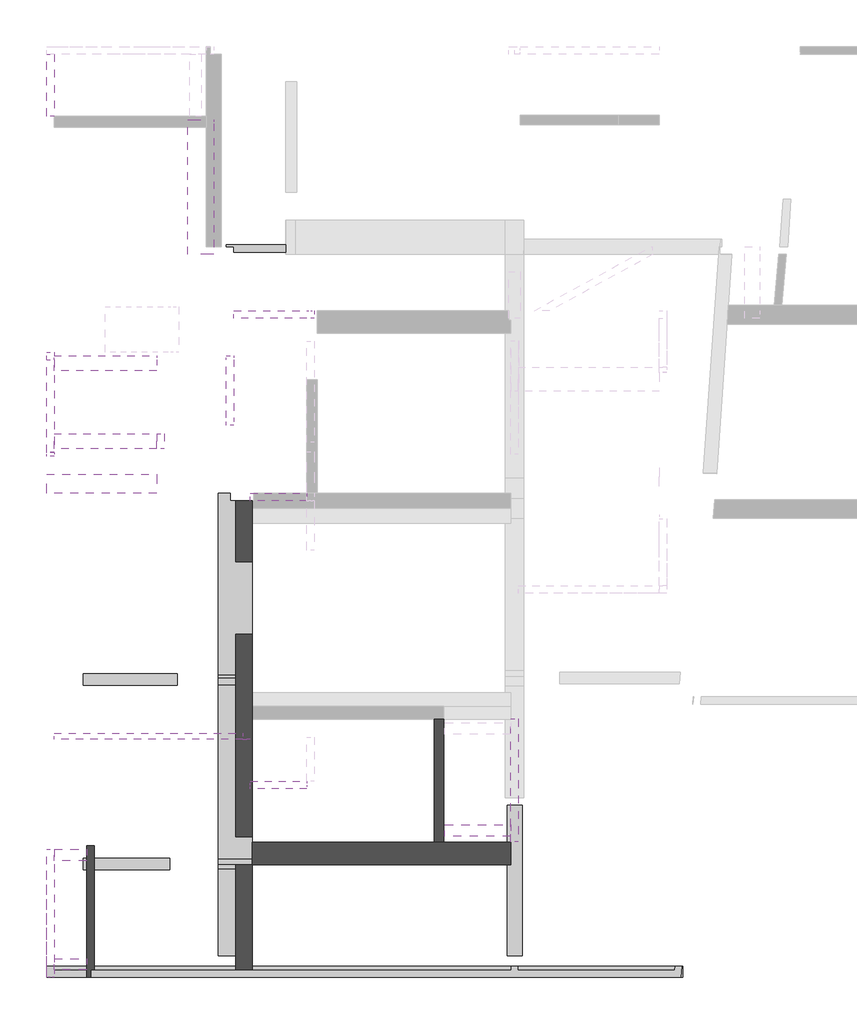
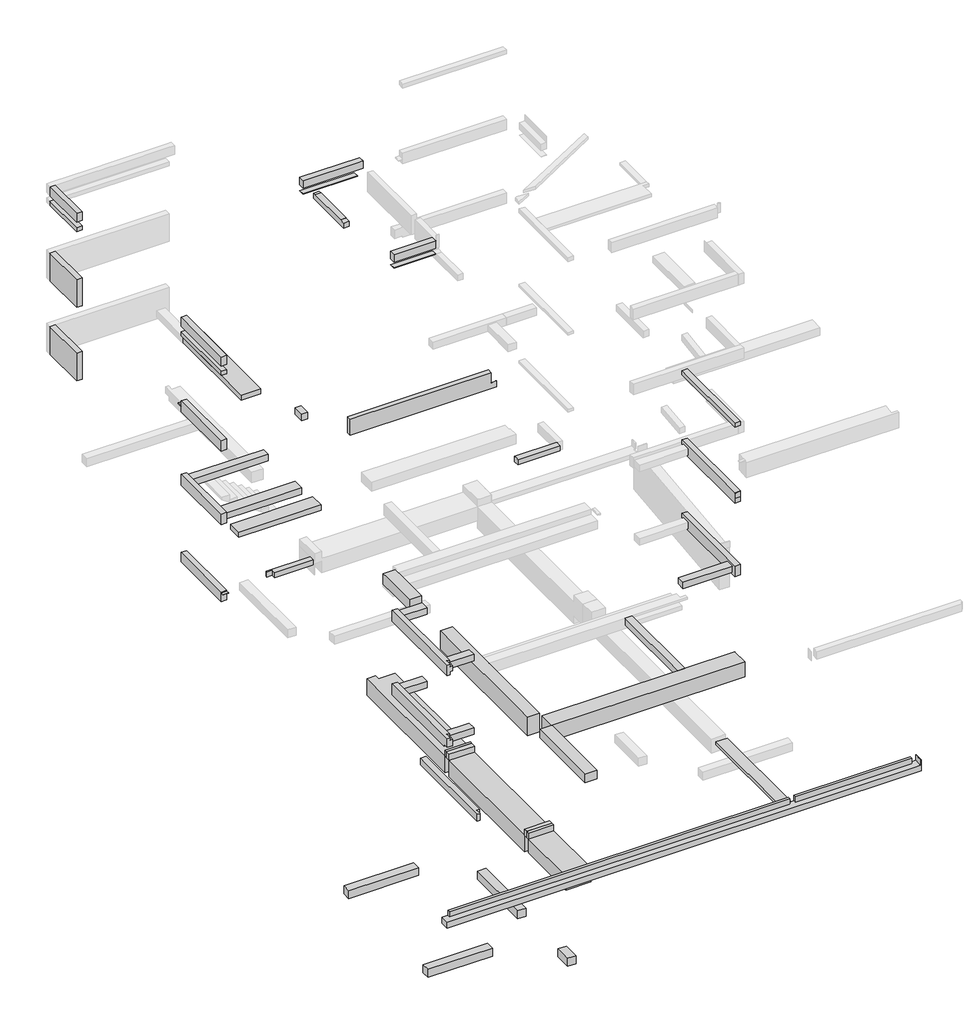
# One storey, part 1 of 3: 43 beams.
"""IFC4 building model written with IfcOpenShell, lengths in millimetres."""

import ifcopenshell
import ifcopenshell.guid

model = None  # the IFC model being written
_history = None  # IfcOwnerHistory: only IFC2X3 demands one
_inside = {}  # id of a spatial element -> (the spatial element, [elements in it])
_under = {}  # id of a project, library or spatial element -> (it, [spatial elements below it])
_declared = {}  # id of a project -> (the project, [libraries it declares])
_typed = {}  # id of a type object -> (the type object, [elements of that type])
_made_of = {}  # id of a material, layer set ... -> (it, [elements and type objects made of it])


def new_model(schema):
    """Start an empty IFC model of exactly this schema.

    Asked for "IFC4X3", IfcOpenShell would pick the latest addendum, in which some entities
    have other attributes; the version numbers below select the first issue.
    IFC2X3 requires an IfcOwnerHistory on every rooted entity: one is made here for all.
    """
    global model, _history
    if schema == "IFC4X3":
        model = ifcopenshell.file(schema_version=(4, 3, 0, 0))
    else:
        model = ifcopenshell.file(schema=schema)
    _inside.clear()
    _under.clear()
    _declared.clear()
    _typed.clear()
    _made_of.clear()
    _history = None
    if model.schema == "IFC2X3":
        org = make("IfcOrganization", Name="unknown")
        user = make(
            "IfcPersonAndOrganization",
            ThePerson=make("IfcPerson", FamilyName="unknown"),
            TheOrganization=org,
        )
        app = make(
            "IfcApplication",
            ApplicationDeveloper=org,
            Version="unknown",
            ApplicationFullName="unknown",
            ApplicationIdentifier="unknown",
        )
        _history = make(
            "IfcOwnerHistory",
            OwningUser=user,
            OwningApplication=app,
            ChangeAction="ADDED",
            CreationDate=0,
        )
    return model


def make(cls, **values):
    """One entity of the class cls with the attributes given. An attribute that is None is left unset."""
    return model.create_entity(
        cls, **{name: value for name, value in values.items() if value is not None}
    )


def rooted(cls, **values):
    """An entity with a GlobalId (a new one), such as an element, a storey or a relation."""
    return make(cls, GlobalId=ifcopenshell.guid.new(), OwnerHistory=_history, **values)


def si_unit(unit_type, name, prefix=None):
    """IfcSIUnit, for example si_unit("LENGTHUNIT", "METRE", prefix="MILLI")."""
    return make("IfcSIUnit", UnitType=unit_type, Prefix=prefix, Name=name)


def assignment(units):
    """IfcUnitAssignment: the units of a project."""
    return None if units is None else make("IfcUnitAssignment", Units=units)


def point(xyz):
    """IfcCartesianPoint."""
    return None if xyz is None else make("IfcCartesianPoint", Coordinates=xyz)


def direction(xyz):
    """IfcDirection."""
    return None if xyz is None else make("IfcDirection", DirectionRatios=xyz)


def frame(location, z_axis=None, x_axis=None):
    """IfcAxis2Placement3D, a coordinate frame: its origin and axes. An axis left out is left unset."""
    return make(
        "IfcAxis2Placement3D",
        Location=point(location),
        Axis=direction(z_axis),
        RefDirection=direction(x_axis),
    )


def origin():
    """The frame at (0, 0, 0) with its axes left unset."""
    return frame((0.0, 0.0, 0.0))


def place(relative_to, where):
    """IfcLocalPlacement: puts the frame where relative to a parent placement (None: the world)."""
    return make(
        "IfcLocalPlacement", PlacementRelTo=relative_to, RelativePlacement=where
    )


def context(
    kind, dimensions, precision=None, world=None, true_north=None, identifier=None
):
    """IfcGeometricRepresentationContext, for example the 3D "Model" context."""
    return make(
        "IfcGeometricRepresentationContext",
        ContextIdentifier=identifier,
        ContextType=kind,
        CoordinateSpaceDimension=dimensions,
        Precision=precision,
        WorldCoordinateSystem=world,
        TrueNorth=true_north,
    )


def project(units=None, contexts=None):
    """IfcProject with its units and contexts."""
    return rooted(
        "IfcProject",
        Name="project",
        RepresentationContexts=contexts,
        UnitsInContext=assignment(units),
    )


def spatial(cls, under=None, at=None, **own):
    """A site, building, storey or space (cls), placed at a placement, below another one or the project."""
    s = rooted(cls, ObjectPlacement=at, **own)
    if under is not None:
        _under.setdefault(under.id(), (under, []))[1].append(s)
    return s


def polyline(points):
    """IfcPolyline through the points."""
    return make("IfcPolyline", Points=[point(p) for p in points])


def outline(outer, holes=None, kind="AREA"):
    """IfcArbitraryClosedProfileDef: a profile drawn as a closed curve; with holes, ...WithVoids."""
    if holes is None:
        return make("IfcArbitraryClosedProfileDef", ProfileType=kind, OuterCurve=outer)
    return make(
        "IfcArbitraryProfileDefWithVoids",
        ProfileType=kind,
        OuterCurve=outer,
        InnerCurves=holes,
    )


def extrude(swept, where, along, depth):
    """IfcExtrudedAreaSolid: the profile swept, set in the frame where, extruded along a direction by depth."""
    return make(
        "IfcExtrudedAreaSolid",
        SweptArea=swept,
        Position=where,
        ExtrudedDirection=direction(along),
        Depth=depth,
    )


def faces_of(points, faces, orient=None, outer=None):
    """IfcFace entities. A face is a list of loops; a loop is a list of indices into points, from 0.

    orient and outer hold one flag for each loop. By default every Orientation is true, the
    first loop of a face is its IfcFaceOuterBound and the others are IfcFaceBound.
    """
    made = []
    for i, loops in enumerate(faces):
        bounds = []
        for j, loop in enumerate(loops):
            is_outer = j == 0 if outer is None else outer[i][j]
            bounds.append(
                make(
                    "IfcFaceOuterBound" if is_outer else "IfcFaceBound",
                    Bound=make("IfcPolyLoop", Polygon=[points[k] for k in loop]),
                    Orientation=True if orient is None else orient[i][j],
                )
            )
        made.append(make("IfcFace", Bounds=bounds))
    return made


def faceted_brep(points, faces, orient=None, outer=None, voids=None):
    """IfcFacetedBrep: a solid bounded by flat faces; with voids (closed shells), ...WithVoids."""
    shared = [point(p) for p in points]
    hull = make("IfcClosedShell", CfsFaces=faces_of(shared, faces, orient, outer))
    if voids is None:
        return make("IfcFacetedBrep", Outer=hull)
    return make(
        "IfcFacetedBrepWithVoids",
        Outer=hull,
        Voids=[
            make(cls, CfsFaces=faces_of(shared, fs, o, b)) for cls, fs, o, b in voids
        ],
    )


def shape(context_of_items, identifier, shape_type, items):
    """IfcShapeRepresentation: the items that make up one representation, for example the "Body"."""
    return make(
        "IfcShapeRepresentation",
        ContextOfItems=context_of_items,
        RepresentationIdentifier=identifier,
        RepresentationType=shape_type,
        Items=items,
    )


def made_of(thing, what):
    """Note that an element or type object is made of a material, layer set ...; save() writes the relation."""
    if what is not None:
        _made_of.setdefault(what.id(), (what, []))[1].append(thing)
    return thing


def element(
    cls,
    number,
    at=None,
    inside=None,
    cuts=None,
    type_object=None,
    material=None,
    context=None,
    identifier="Body",
    shape_type=None,
    held_by="IfcProductDefinitionShape",
    body=None,
    shapes=None,
    **own,
):
    """One element of the class cls, such as IfcWall. Its Tag is "e" and its number.

    at: its placement. inside: the storey or other place that contains it. cuts: it is an
    opening in that element (IfcRelVoidsElement). A single representation is given by context,
    identifier, shape_type and body (its items); several are given by shapes. held_by: the class
    of the entity that holds the representations. save() writes the other relations.
    """
    e = rooted(cls, Tag="e%d" % number, ObjectPlacement=at, **own)
    if body is not None:
        shapes = [shape(context, identifier, shape_type, body)]
    if shapes is not None:
        e.Representation = make(held_by, Representations=shapes)
    if inside is not None:
        _inside.setdefault(inside.id(), (inside, []))[1].append(e)
    if cuts is not None:
        rooted(
            "IfcRelVoidsElement", RelatingBuildingElement=cuts, RelatedOpeningElement=e
        )
    if type_object is not None:
        _typed.setdefault(type_object.id(), (type_object, []))[1].append(e)
    return made_of(e, material)


def aggregate(whole, parts):
    """IfcRelAggregates: a whole, such as a stair, and the parts it consists of."""
    return rooted("IfcRelAggregates", RelatingObject=whole, RelatedObjects=parts)


def save(model, path):
    """Write the relations noted so far, then the file.

    IfcRelAggregates (storeys below a building ...), IfcRelContainedInSpatialStructure (elements
    in a storey), IfcRelDefinesByType, IfcRelAssociatesMaterial and IfcRelDeclares: one each for
    every whole, place, type object, material and project.
    """
    for whole, parts in _under.values():
        aggregate(whole, parts)
    for where, things in _inside.values():
        rooted(
            "IfcRelContainedInSpatialStructure",
            RelatedElements=things,
            RelatingStructure=where,
        )
    for kind, things in _typed.values():
        rooted("IfcRelDefinesByType", RelatedObjects=things, RelatingType=kind)
    for what, things in _made_of.values():
        rooted("IfcRelAssociatesMaterial", RelatedObjects=things, RelatingMaterial=what)
    for by, libraries in _declared.values():
        rooted("IfcRelDeclares", RelatingContext=by, RelatedDefinitions=libraries)
    model.write(path)


model = new_model("IFC4")

# Units and contexts
model_context = context("Model", 3, world=origin())
ifc_project = project(units=[si_unit("LENGTHUNIT", "METRE", prefix="MILLI")], contexts=[model_context])

# Site, building, storey
site = spatial("IfcSite", under=ifc_project)
building = spatial("IfcBuilding", under=site)
storey = spatial("IfcBuildingStorey", under=building, Name="02-Plateau 2", Elevation=2400.0)

# Beams
placement = place(None, origin())
element("IfcBeam", 1, ObjectType="Poutre rectangulaire - Béton : Coulée en place 43x57", at=placement, inside=storey, context=model_context, shape_type="SweptSolid", body=[
    extrude(outline(polyline([(-1072.0447796, -2750.1377724), (-642.0447796, -2750.1377724), (-642.0447796, -5540.1377724), (-1072.0447796, -5540.1377724), (-1072.0447796, -2750.1377724)])), frame((0.0, 0.0, 3440.0), z_axis=(0.0, 0.0, 1.0), x_axis=(1.0, 0.0, 0.0)), (0.0, 0.0, 1.0), 320.0),
])
element("IfcBeam", 2, ObjectType="Poutre rectangulaire - Béton : Coulée en place 43x95", at=placement, inside=storey, context=model_context, shape_type="Brep", body=[
    faceted_brep([(-1072.0447796, -1999.7877724, 3060.0), (-642.0447796, -1999.7877724, 3060.0), (-642.0447796, -1999.7877724, 3760.0), (-1072.0447796, -1999.7877724, 3760.0), (-642.0447796, 3375.2622276, 3060.0), (-642.0447796, 3375.2622276, 3760.0), (-642.0447796, 1469.8622276, 3760.0), (-642.0447796, 1119.8622276, 3760.0), (-1072.0447796, 3375.2622276, 3060.0), (-1072.0447796, 3375.2622276, 3760.0)], [[[0, 1, 2, 3]], [[2, 1, 4, 5, 6, 7]], [[1, 0, 8, 4]], [[0, 3, 9, 8]], [[3, 2, 7, 6, 5, 9]], [[5, 4, 8, 9]]]),
])
element("IfcBeam", 3, ObjectType="Poutre rectangulaire - Béton : Coulée en place 43x65", at=placement, inside=storey, context=model_context, shape_type="Brep", body=[
    faceted_brep([(-642.0447796, 6929.8622276, 3360.0), (-642.0447796, 6929.8622276, 3760.0), (-642.0447796, 6729.8622276, 3760.0), (-642.0447796, 5305.2622276, 3760.0), (-642.0447796, 5305.2622276, 3360.0), (-642.0447796, 6329.8622276, 3360.0), (-1072.0447796, 6929.8622276, 3360.0), (-1072.0447796, 5305.2622276, 3360.0), (-1072.0447796, 6329.8622276, 3360.0), (-1072.0447796, 5305.2622276, 3760.0), (-1072.0447796, 6729.8622276, 3760.0), (-1072.0447796, 6929.8622276, 3760.0)], [[[0, 1, 2, 3, 4, 5]], [[6, 0, 5, 4, 7, 8]], [[9, 10, 11, 6, 8, 7]], [[4, 3, 9, 7]], [[1, 0, 6, 11]], [[1, 11, 10, 9, 3, 2]]]),
])
element("IfcBeam", 4, ObjectType="Poutre rectangulaire - Béton : Coulée en place 20x50", at=placement, inside=storey, context=model_context, shape_type="Brep", body=[
    faceted_brep([(-4837.0447796, -5540.1377724, 3760.0), (-4837.0447796, -5540.1377724, 3510.0), (-4837.0447796, -2340.1377724, 3510.0), (-4837.0447796, -2240.1377724, 3510.0), (-4837.0447796, -2240.1377724, 3760.0), (-4837.0447796, -2340.1377724, 3760.0), (-5037.0447796, -5742.5306807, 3510.0), (-5037.0447796, -5740.1377724, 3510.0), (-5037.0447796, -2340.1377724, 3510.0), (-5037.0447796, -2240.1377724, 3510.0), (-4937.0447796, -5540.1377724, 3510.0), (-4937.0447796, -5740.1377724, 3510.0), (-4937.0447796, -5742.5306807, 3510.0), (-5037.0447796, -5742.5306807, 3760.0), (-5037.0447796, -2340.1377724, 3760.0), (-5037.0447796, -2240.1377724, 3760.0), (-4937.0447796, -5742.5306807, 3760.0), (-4937.0447796, -5540.1377724, 3760.0), (-4937.0447796, -5740.1377724, 3760.0)], [[[0, 1, 2, 3, 4, 5]], [[6, 7, 8, 9, 3, 2, 1, 10, 11, 12]], [[9, 8, 7, 6, 13, 14, 15]], [[6, 12, 16, 13]], [[10, 17, 18, 16, 12, 11]], [[17, 10, 1, 0]], [[0, 5, 4, 15, 14, 13, 16, 18, 17]], [[3, 9, 15, 4]]]),
])
element("IfcBeam", 5, ObjectType="Poutre rectangulaire - Béton : Coulée en place 600x820", at=placement, inside=storey, context=model_context, shape_type="Brep", body=[
    faceted_brep([(6232.9552204, -2750.1377724, 3190.0), (6232.9552204, -2750.1377724, 3760.0), (-642.0447796, -2750.1377724, 3760.0), (-642.0447796, -2750.1377724, 3190.0), (-642.0447796, -2150.1377724, 3190.0), (6232.9552204, -2150.1377724, 3190.0), (-642.0447796, -2150.1377724, 3760.0), (4202.9552204, -2150.1377724, 3760.0), (4452.9552204, -2150.1377724, 3760.0), (6232.9552204, -2150.1377724, 3760.0), (6232.9552204, -2150.1377724, 3510.0), (-642.0447796, -2727.4377724, 3760.0), (6232.9552204, -2160.1377724, 3760.0)], [[[0, 1, 2, 3]], [[3, 4, 5, 0]], [[4, 6, 7, 8, 9, 10, 5]], [[6, 4, 3, 2, 11]], [[1, 0, 5, 10, 9, 12]], [[2, 1, 12, 9, 8, 7, 6, 11]]]),
])
element("IfcBeam", 6, ObjectType="Poutre rectangulaire - Béton : Coulée en place 20x100", at=placement, inside=storey, context=model_context, shape_type="Brep", body=[
    faceted_brep([(-6107.0447796, 10679.8622276, 3690.0), (-6107.0447796, 8209.8622276, 3690.0), (-6107.0447796, 8209.8622276, 3760.0), (-6107.0447796, 8209.8622276, 4010.0), (-6107.0447796, 8109.8622276, 4010.0), (-6107.0447796, 8109.8622276, 4022.7706813), (-6107.0447796, 8209.8622276, 4022.7706813), (-6107.0447796, 8209.8622276, 4050.0), (-6107.0447796, 10679.8622276, 4050.0), (-5907.0447796, 8209.8622276, 3690.0), (-5907.0447796, 10679.8622276, 3690.0), (-5907.0447796, 10679.8622276, 4050.0), (-5907.0447796, 8209.8622276, 4050.0), (-5907.0447796, 8209.8622276, 4022.7706813), (-5907.0447796, 8109.8622276, 4022.7706813), (-5907.0447796, 8109.8622276, 4010.0), (-5907.0447796, 8209.8622276, 4010.0), (-5907.0447796, 8209.8622276, 3760.0)], [[[0, 1, 2, 3, 4, 5, 6, 7, 8]], [[9, 10, 11, 12, 13, 14, 15, 16, 17]], [[11, 8, 7, 12]], [[1, 0, 10, 9]], [[10, 0, 8, 11]], [[4, 15, 14, 5]], [[3, 16, 15, 4]], [[6, 13, 12, 7]], [[13, 6, 5, 14]], [[16, 3, 2, 1, 9, 17]]]),
])
element("IfcBeam", 7, ObjectType="Poutre rectangulaire - Béton : Coulée en place 25x50", at=placement, inside=storey, context=model_context, shape_type="Brep", body=[
    faceted_brep([(4202.9552204, 1119.8622276, 3510.0), (4202.9552204, -2150.1377724, 3510.0), (4202.9552204, -2150.1377724, 3760.0), (4202.9552204, 1119.8622276, 3760.0), (4452.9552204, -2150.1377724, 3510.0), (4452.9552204, 1119.8622276, 3510.0), (4452.9552204, 1119.8622276, 3690.0), (4452.9552204, 1119.8622276, 3760.0), (4452.9552204, -2150.1377724, 3760.0), (4452.9552204, -2150.1377724, 3690.0)], [[[0, 1, 2, 3]], [[4, 1, 0, 5]], [[4, 5, 6, 7, 8, 9]], [[1, 4, 9, 8, 2]], [[5, 0, 3, 7, 6]], [[3, 2, 8, 7]]]),
])
element("IfcBeam", 8, ObjectType="Poutre rectangulaire - Béton : Coulée en place 20x40", at=placement, inside=storey, context=model_context, shape_type="Brep", body=[
    faceted_brep([(-6107.0447796, -2340.1377724, 6590.0), (-6107.0447796, -5540.1377724, 6590.0), (-6107.0447796, -5540.1377724, 6660.0), (-6107.0447796, -5740.1377724, 6660.0), (-6107.0447796, -5740.1377724, 6990.0), (-6107.0447796, -2340.1377724, 6990.0), (-6107.0447796, -2340.1377724, 6970.0), (-6107.0447796, -2340.1377724, 6770.0), (-5907.0447796, -2340.1377724, 6590.0), (-5907.0447796, -5540.1377724, 6590.0), (-5907.0447796, -2340.1377724, 6660.0), (-5907.0447796, -2340.1377724, 6770.0), (-5907.0447796, -2340.1377724, 6900.0), (-5907.0447796, -2340.1377724, 6970.0), (-5907.0447796, -2340.1377724, 6990.0), (-5907.0447796, -5540.1377724, 6990.0), (-5907.0447796, -5540.1377724, 6900.0), (-5907.0447796, -5740.1377724, 6900.0), (-5907.0447796, -5740.1377724, 6660.0), (-5907.0447796, -5540.1377724, 6660.0), (-6007.0447796, -5740.1377724, 6990.0), (-6007.0447796, -5540.1377724, 6990.0), (-6007.0447796, -5740.1377724, 6900.0), (-6007.0447796, -5540.1377724, 6900.0)], [[[0, 1, 2, 3, 4, 5, 6, 7]], [[0, 8, 9, 1]], [[9, 8, 10, 11, 12, 13, 14, 15, 16, 17, 18, 19]], [[5, 4, 20, 21, 15, 14]], [[4, 3, 18, 17, 22, 20]], [[8, 0, 7, 6, 5, 14, 13, 12, 11, 10]], [[1, 9, 19, 2]], [[2, 19, 18, 3]], [[23, 16, 15, 21]], [[23, 22, 17, 16]], [[22, 23, 21, 20]]]),
])
element("IfcBeam", 9, ObjectType="Poutre rectangulaire - Béton : Coulée en place 20x40", at=placement, inside=storey, context=model_context, shape_type="Brep", body=[
    faceted_brep([(6432.9552204, -2140.1377724, 6990.0), (6432.9552204, -2140.1377724, 6970.0), (6432.9552204, -2140.1377724, 6770.0), (6432.9552204, -2140.1377724, 6590.0), (6432.9552204, 1129.8622276, 6590.0), (6432.9552204, 1129.8622276, 6770.0), (6432.9552204, 1129.8622276, 6970.0), (6432.9552204, 1129.8622276, 6990.0), (6232.9552204, -2140.1377724, 6590.0), (6232.9552204, 1129.8622276, 6590.0), (6232.9552204, -2140.1377724, 6660.0), (6232.9552204, -2140.1377724, 6900.0), (6232.9552204, -2140.1377724, 6990.0), (6232.9552204, 1129.8622276, 6990.0), (6232.9552204, 1129.8622276, 6900.0), (6232.9552204, 1129.8622276, 6660.0)], [[[0, 1, 2, 3, 4, 5, 6, 7]], [[3, 8, 9, 4]], [[8, 10, 11, 12, 13, 14, 15, 9]], [[12, 0, 7, 13]], [[8, 3, 2, 1, 0, 12, 11, 10]], [[4, 9, 15, 14, 13, 7, 6, 5]]]),
])
element("IfcBeam", 10, ObjectType="Poutre rectangulaire - Béton : Coulée en place 20x40", at=placement, inside=storey, context=model_context, shape_type="Brep", body=[
    faceted_brep([(-6107.0447796, 10679.8622276, 6990.0), (-6107.0447796, 10679.8622276, 6770.0), (-6107.0447796, 10679.8622276, 6590.0), (-6107.0447796, 8209.8622276, 6590.0), (-6107.0447796, 8209.8622276, 6770.0), (-6107.0447796, 8209.8622276, 6970.0), (-6107.0447796, 8209.8622276, 6990.0), (-5907.0447796, 10679.8622276, 6590.0), (-5907.0447796, 8209.8622276, 6590.0), (-5907.0447796, 10679.8622276, 6770.0), (-5907.0447796, 10679.8622276, 6792.7706813), (-5907.0447796, 10679.8622276, 6900.0), (-5907.0447796, 10679.8622276, 6990.0), (-5907.0447796, 8209.8622276, 6990.0), (-5907.0447796, 8209.8622276, 6900.0), (-5907.0447796, 8209.8622276, 6660.0)], [[[0, 1, 2, 3, 4, 5, 6]], [[2, 7, 8, 3]], [[7, 9, 10, 11, 12, 13, 14, 15, 8]], [[12, 0, 6, 13]], [[7, 2, 1, 0, 12, 11, 10, 9]], [[13, 6, 5, 4, 3, 8, 15, 14]]]),
])
element("IfcBeam", 11, ObjectType="Poutre rectangulaire - Béton : Coulée en place 20x40", at=placement, inside=storey, context=model_context, shape_type="Brep", body=[
    faceted_brep([(6432.9552204, -2140.1377724, 9360.0), (6432.9552204, 1129.8622276, 9360.0), (6432.9552204, 1129.8622276, 9540.0), (6432.9552204, 1129.8622276, 9740.0), (6432.9552204, 1129.8622276, 9760.0), (6432.9552204, -2140.1377724, 9760.0), (6432.9552204, -2140.1377724, 9740.0), (6432.9552204, -2142.5306807, 9740.0), (6432.9552204, -2142.5306807, 9540.0), (6432.9552204, -2140.1377724, 9540.0), (6232.9552204, 1129.8622276, 9360.0), (6233.3552204, -2140.1377724, 9360.0), (6232.9552204, -2140.1377724, 9360.0), (6232.9552204, -2140.1377724, 9430.0), (6232.9552204, -2140.1377724, 9540.0), (6232.9552204, -2142.5306807, 9540.0), (6232.9552204, -2142.5306807, 9670.0), (6232.9552204, -2140.1377724, 9670.0), (6232.9552204, -2140.1377724, 9760.0), (6232.9552204, 1129.8622276, 9760.0), (6232.9552204, 1129.8622276, 9740.0), (6232.9552204, 1129.8622276, 9670.0), (6232.9552204, 1129.8622276, 9430.0), (6233.3552204, -2140.1377724, 9540.0), (6233.3552204, -2142.5306807, 9740.0), (6233.3552204, -2142.5306807, 9670.0), (6233.3552204, -2140.1377724, 9670.0), (6233.3552204, -2140.1377724, 9740.0)], [[[0, 1, 2, 3, 4, 5, 6, 7, 8, 9]], [[10, 1, 0, 11, 12]], [[10, 12, 13, 14, 15, 16, 17, 18, 19, 20, 21, 22]], [[18, 5, 4, 19]], [[1, 10, 22, 21, 20, 19, 4, 3, 2]], [[0, 9, 23, 14, 13, 12, 11]], [[23, 9, 8, 15, 14]], [[8, 7, 24, 25, 16, 15]], [[17, 26, 27, 6, 5, 18]], [[26, 17, 16, 25]], [[26, 25, 24, 27]], [[6, 27, 24, 7]]]),
])
element("IfcBeam", 12, ObjectType="Poutre rectangulaire - Béton : Coulée en place 20x40", at=placement, inside=storey, context=model_context, shape_type="Brep", body=[
    faceted_brep([(-6107.0447796, -5740.1377724, 9360.0), (-6107.0447796, -5740.1377724, 9760.0), (-6107.0447796, -2340.1377724, 9760.0), (-6107.0447796, -2340.1377724, 9740.0), (-6107.0447796, -2340.1377724, 9540.0), (-6107.0447796, -2340.1377724, 9360.0), (-6007.0447796, -5740.1377724, 9360.0), (-5907.0447796, -2340.1377724, 9360.0), (-5907.0447796, -5540.1377724, 9360.0), (-6007.0447796, -5540.1377724, 9360.0), (-5907.0447796, -5540.1377724, 9470.0), (-5907.0447796, -5540.1377724, 9430.0), (-5907.0447796, -2340.1377724, 9430.0), (-5907.0447796, -2340.1377724, 9540.0), (-5907.0447796, -2340.1377724, 9670.0), (-5907.0447796, -2340.1377724, 9740.0), (-5907.0447796, -2340.1377724, 9760.0), (-5907.0447796, -5540.1377724, 9760.0), (-5907.0447796, -5540.1377724, 9670.0), (-5907.0447796, -5740.1377724, 9670.0), (-5907.0447796, -5740.1377724, 9470.0), (-6007.0447796, -5740.1377724, 9760.0), (-6007.0447796, -5540.1377724, 9760.0), (-6007.0447796, -5740.1377724, 9470.0), (-6007.0447796, -5740.1377724, 9670.0), (-6007.0447796, -5540.1377724, 9470.0), (-6007.0447796, -5540.1377724, 9670.0)], [[[0, 1, 2, 3, 4, 5]], [[6, 0, 5, 7, 8, 9]], [[10, 11, 8, 7, 12, 13, 14, 15, 16, 17, 18, 19, 20]], [[2, 1, 21, 22, 17, 16]], [[1, 0, 6, 23, 20, 19, 24, 21]], [[10, 25, 9, 8, 11]], [[23, 25, 10, 20]], [[25, 23, 6, 9]], [[7, 5, 4, 3, 2, 16, 15, 14, 13, 12]], [[26, 18, 17, 22]], [[26, 24, 19, 18]], [[24, 26, 22, 21]]]),
])
element("IfcBeam", 13, ObjectType="Poutre rectangulaire - Béton : Coulée en place 20x40", at=placement, inside=storey, context=model_context, shape_type="Brep", body=[
    faceted_brep([(-6107.0447796, 10679.8622276, 9360.0), (-6107.0447796, 8209.8622276, 9360.0), (-6107.0447796, 8209.8622276, 9540.0), (-6107.0447796, 8209.8622276, 9740.0), (-6107.0447796, 8209.8622276, 9760.0), (-6107.0447796, 10679.8622276, 9760.0), (-6107.0447796, 10679.8622276, 9562.7706813), (-6107.0447796, 10879.8622276, 9562.7706813), (-6107.0447796, 10879.8622276, 9540.0), (-6107.0447796, 10679.8622276, 9540.0), (-5907.0447796, 8209.8622276, 9360.0), (-5907.0447796, 10679.8622276, 9360.0), (-5907.0447796, 10679.8622276, 9540.0), (-5907.0447796, 10879.8622276, 9540.0), (-5907.0447796, 10879.8622276, 9562.7706813), (-5907.0447796, 10679.8622276, 9562.7706813), (-5907.0447796, 10679.8622276, 9760.0), (-5907.0447796, 8209.8622276, 9760.0), (-5907.0447796, 8209.8622276, 9670.0), (-5907.0447796, 8209.8622276, 9430.0)], [[[0, 1, 2, 3, 4, 5, 6, 7, 8, 9]], [[10, 1, 0, 11]], [[10, 11, 12, 13, 14, 15, 16, 17, 18, 19]], [[4, 17, 16, 5]], [[13, 8, 7, 14]], [[1, 10, 19, 18, 17, 4, 3, 2]], [[9, 12, 11, 0]], [[12, 9, 8, 13]], [[15, 6, 5, 16]], [[6, 15, 14, 7]]]),
])
element("IfcBeam", 14, ObjectType="Poutre rectangulaire - Béton : Coulée en place 20x69", at=placement, inside=storey, context=model_context, shape_type="SweptSolid", body=[
    extrude(outline(polyline([(-5907.0447796, 8209.8622276), (-6107.0447796, 8209.8622276), (-6107.0447796, 10679.8622276), (-5907.0447796, 10679.8622276), (-5907.0447796, 8209.8622276)])), frame((0.0, 0.0, 12570.0), z_axis=(0.0, 0.0, 1.0), x_axis=(1.0, 0.0, 0.0)), (0.0, 0.0, 1.0), 340.0),
    extrude(outline(polyline([(-5907.0447796, 8209.8622276), (-6107.0447796, 8209.8622276), (-6107.0447796, 10679.8622276), (-5907.0447796, 10679.8622276), (-5907.0447796, 8209.8622276)])), frame((0.0, 0.0, 12220.0), z_axis=(0.0, 0.0, 1.0), x_axis=(1.0, 0.0, 0.0)), (0.0, 0.0, 1.0), 150.0),
])
element("IfcBeam", 15, ObjectType="Poutre rectangulaire - Béton : Coulée en place 20x61", at=placement, inside=storey, context=model_context, shape_type="Brep", body=[
    faceted_brep([(6432.9552204, -2140.1377724, 12220.0), (6233.3552204, -2140.1377724, 12220.0), (6232.9552204, -2140.1377724, 12220.0), (6232.9552204, 1129.8622276, 12220.0), (6432.9552204, 1129.8622276, 12220.0), (6432.9552204, -2140.1377724, 12370.0), (6432.9552204, 1129.8622276, 12370.0), (6232.9552204, -2140.1377724, 12370.0), (6233.3552204, -2140.1377724, 12370.0), (6232.9552204, 1129.8622276, 12370.0)], [[[0, 1, 2, 3, 4]], [[5, 0, 4, 6]], [[7, 2, 1, 0, 5, 8]], [[3, 9, 6, 4]], [[9, 7, 8, 5, 6]], [[2, 7, 9, 3]]]),
])
element("IfcBeam", 16, ObjectType="Poutre rectangulaire - Béton : Coulée en place 16x60", at=placement, inside=storey, context=model_context, shape_type="Brep", body=[
    faceted_brep([(-5907.0447796, 749.8622276, 14520.0), (-5907.0447796, 749.8622276, 15120.0), (-887.0447796, 749.8622276, 15120.0), (-887.0447796, 749.8622276, 14520.0), (-687.0447796, 589.8622276, 14520.0), (-5907.0447796, 589.8622276, 14520.0), (-887.0447796, 592.8184067, 14520.0), (-687.0447796, 592.8184067, 14520.0), (-687.0447796, 589.8622276, 14740.0), (-887.0447796, 589.8622276, 14740.0), (-887.0447796, 589.8622276, 15120.0), (-5907.0447796, 589.8622276, 15120.0), (-687.0447796, 592.8184067, 14740.0), (-887.0447796, 592.8184067, 14740.0)], [[[0, 1, 2, 3]], [[4, 5, 0, 3, 6, 7]], [[5, 4, 8, 9, 10, 11]], [[1, 11, 10, 2]], [[4, 7, 12, 8]], [[1, 0, 5, 11]], [[9, 13, 6, 3, 2, 10]], [[12, 13, 9, 8]], [[13, 12, 7, 6]]]),
])
element("IfcBeam", 17, ObjectType="Poutre rectangulaire - Béton : Coulée en place 90x85", at=placement, inside=storey, context=model_context, shape_type="Brep", body=[
    faceted_brep([(-637.0447796, 6929.8622276, -770.0), (-637.0447796, 6929.8622276, -190.0), (-637.0447796, 6929.8622276, -150.0), (-637.0447796, 2289.8622276, -150.0), (-637.0447796, 2289.8622276, -190.0), (-637.0447796, 2289.8622276, -770.0), (-1227.0447796, 6929.8622276, -770.0), (-1537.0447796, 2289.8622276, -770.0), (-1537.0447796, 7129.8622276, -770.0), (-1227.0447796, 7129.8622276, -770.0), (-1537.0447796, 2289.8622276, -150.0), (-1537.0447796, 7129.8622276, -150.0), (-1537.0447796, 2209.8622276, 80.0), (-637.0447796, 2209.8622276, 80.0), (-637.0447796, 2289.8622276, 80.0), (-1537.0447796, 2289.8622276, 80.0), (-1227.0447796, 7129.8622276, -150.0), (-1227.0447796, 6929.8622276, -150.0), (-637.0447796, 2209.8622276, -150.0), (-1537.0447796, 2209.8622276, -150.0)], [[[0, 1, 2, 3, 4, 5]], [[6, 0, 5, 7, 8, 9]], [[7, 10, 11, 8]], [[12, 13, 14, 15]], [[9, 8, 11, 16]], [[1, 0, 6, 17, 2]], [[3, 10, 7, 5, 4]], [[10, 3, 18, 19]], [[13, 12, 19, 18]], [[3, 2, 17, 16, 11, 10]], [[3, 10, 15, 14]], [[18, 3, 14, 13]], [[10, 19, 12, 15]], [[17, 6, 9, 16]]]),
])
element("IfcBeam", 18, ObjectType="Poutre rectangulaire - Béton : Coulée en place 90x85", at=placement, inside=storey, context=model_context, shape_type="Brep", body=[
    faceted_brep([(-1537.0447796, -2600.1377724, -150.0), (-1537.0447796, -2750.1377724, -150.0), (-1537.0447796, -2750.1377724, 80.0), (-1537.0447796, -2600.1377724, 80.0), (-1537.0447796, 2039.8622276, -770.0), (-637.0447796, 2039.8622276, -770.0), (-637.0447796, -2600.1377724, -770.0), (-1537.0447796, -2600.1377724, -770.0), (-637.0447796, -2750.1377724, -150.0), (-637.0447796, -2600.1377724, -150.0), (-637.0447796, -2600.1377724, 80.0), (-637.0447796, -2750.1377724, 80.0), (-1537.0447796, 2209.8622276, 80.0), (-637.0447796, 2209.8622276, 80.0), (-637.0447796, 2209.8622276, -150.0), (-1537.0447796, 2209.8622276, -150.0), (-1537.0447796, 2039.8622276, -150.0), (-637.0447796, 2039.8622276, -150.0), (-637.0447796, 2039.8622276, -190.0), (-637.0447796, -2600.1377724, -190.0), (-637.0447796, 2039.8622276, 80.0), (-1537.0447796, 2039.8622276, 80.0)], [[[0, 1, 2, 3]], [[4, 5, 6, 7]], [[8, 9, 10, 11]], [[2, 11, 10, 3]], [[12, 13, 14, 15]], [[16, 17, 18, 5, 4]], [[17, 16, 15, 14]], [[9, 0, 7, 6, 19]], [[0, 9, 8, 1]], [[11, 2, 1, 8]], [[16, 0, 9, 17]], [[16, 17, 20, 21]], [[9, 0, 3, 10]], [[16, 4, 7, 0]], [[12, 15, 16, 21]], [[6, 5, 18, 17, 9, 19]], [[14, 13, 20, 17]], [[13, 12, 21, 20]]]),
])
element("IfcBeam", 19, ObjectType="Poutre rectangulaire - Béton : Coulée en place 90x75", at=placement, inside=storey, context=model_context, shape_type="Brep", body=[
    faceted_brep([(-1537.0447796, -2850.1377724, -150.0), (-1537.0447796, -2850.1377724, -670.0), (-1537.0447796, -5160.1377724, -670.0), (-1537.0447796, -5160.1377724, -150.0), (-637.0447796, -2850.1377724, -670.0), (-637.0447796, -5160.1377724, -670.0), (-637.0447796, -5160.1377724, -190.0), (-637.0447796, -2850.1377724, -190.0), (-637.0447796, -2850.1377724, -150.0), (-637.0447796, -5160.1377724, -150.0), (-637.0447796, -2750.1377724, 80.0), (-1537.0447796, -2750.1377724, 80.0), (-1537.0447796, -2850.1377724, 80.0), (-637.0447796, -2850.1377724, 80.0), (-637.0447796, -2750.1377724, -150.0), (-1537.0447796, -2750.1377724, -150.0)], [[[0, 1, 2, 3]], [[1, 4, 5, 2]], [[6, 5, 4, 7, 8, 9]], [[10, 11, 12, 13]], [[11, 10, 14, 15]], [[0, 8, 7, 4, 1]], [[8, 0, 15, 14]], [[3, 2, 5, 6, 9]], [[0, 3, 9, 8]], [[0, 8, 13, 12]], [[11, 15, 0, 12]], [[14, 10, 13, 8]]]),
])
element("IfcBeam", 20, ObjectType="Poutre rectangulaire - Béton : Coulée en place 20x45", at=placement, inside=storey, context=model_context, shape_type="SweptSolid", body=[
    extrude(outline(polyline([(-1327.0447796, 13679.8622276), (-1327.0447796, 13729.8622276), (255.2552204, 13729.8622276), (255.2552204, 13529.8622276), (-1127.0447796, 13529.8622276), (-1127.0447796, 13679.8622276), (-1327.0447796, 13679.8622276)])), frame((0.0, 0.0, -370.0), z_axis=(0.0, 0.0, 1.0), x_axis=(1.0, 0.0, 0.0)), (0.0, 0.0, 1.0), 180.0),
])
element("IfcBeam", 21, ObjectType="Poutre rectangulaire - Béton : Coulée en place 40x38", at=placement, inside=storey, context=model_context, shape_type="SweptSolid", body=[
    extrude(outline(polyline([(6132.9552204, -1160.1377724), (6532.9552204, -1160.1377724), (6532.9552204, -5160.1377724), (6132.9552204, -5160.1377724), (6132.9552204, -1160.1377724)])), frame((0.0, 0.0, -300.0), z_axis=(0.0, 0.0, 1.0), x_axis=(1.0, 0.0, 0.0)), (0.0, 0.0, 1.0), 110.0),
])
element("IfcBeam", 22, ObjectType="Poutre rectangulaire - Béton : corbeaux 30x43", at=placement, inside=storey, context=model_context, shape_type="Brep", body=[
    faceted_brep([(10805.6552204, -5740.1377724, 280.0), (10805.6552204, -5740.1377724, -150.0), (10805.6552204, -5440.4570037, -150.0), (10805.6552204, -5440.4570037, 80.0), (10805.6552204, -5440.1377724, 80.0), (10805.6552204, -5440.1377724, 280.0), (10766.9267033, -5740.1377724, 280.0), (10766.9267033, -5740.1377724, 80.0), (10566.4383237, -5740.1377724, 80.0), (-4937.0447796, -5740.1377724, 80.0), (-6107.0447796, -5740.1377724, 80.0), (-6107.0447796, -5740.1377724, -150.0), (-6107.0447796, -5440.1377724, -150.0), (-637.0447796, -5440.1377724, -150.0), (6533.9216137, -5440.1377724, -150.0), (6533.9216137, -5440.4570037, -150.0), (10787.9047469, -5440.1377724, 280.0), (10787.9047469, -5440.1377724, 80.0), (-6107.0447796, -5440.1377724, 80.0), (-5907.0447796, -5440.1377724, 280.0), (-5907.0447796, -5440.1377724, 80.0), (-5907.0447796, -5540.1377724, 80.0), (-5907.0447796, -5540.1377724, 280.0), (10787.882424, -5440.4570037, 80.0), (10587.3940444, -5440.4570037, 80.0), (10580.423686, -5540.1377724, 80.0), (6432.9552204, -5540.1377724, 80.0), (6432.9552204, -5440.1377724, 80.0), (6232.9552204, -5440.1377724, 80.0), (6232.9552204, -5540.1377724, 80.0), (-4937.0447796, -5540.1377724, 80.0), (10580.423686, -5540.1377724, 280.0), (6432.9552204, -5540.1377724, 280.0), (6432.9552204, -5440.1377724, 280.0), (6232.9552204, -5440.1377724, 280.0), (6232.9552204, -5540.1377724, 280.0), (10587.4163672, -5440.1377724, 80.0), (10587.4163672, -5440.1377724, 280.0), (6533.9216137, -5440.4570037, 80.0), (6533.9216137, -5440.1377724, 80.0)], [[[0, 1, 2, 3, 4, 5]], [[1, 0, 6, 7, 8, 9, 10, 11]], [[1, 11, 12, 13, 14, 15, 2]], [[16, 5, 4, 17]], [[0, 5, 16, 6]], [[12, 11, 10, 18]], [[19, 20, 21, 22]], [[20, 18, 10, 9, 8, 7, 23, 24, 25, 26, 27, 28, 29, 30, 21]], [[31, 32, 26, 25]], [[27, 26, 32, 33]], [[29, 28, 34, 35]], [[19, 22, 35, 34]], [[36, 37, 31, 25, 24]], [[16, 17, 23, 7, 6]], [[24, 38, 39, 36]], [[15, 38, 24, 23, 3, 2]], [[38, 15, 14, 39]], [[20, 19, 34, 28, 27, 33, 37, 36, 39, 14, 13, 12, 18]], [[3, 23, 17, 4]], [[33, 32, 31, 37]], [[22, 21, 30, 29, 35]]]),
])
element("IfcBeam", 23, ObjectType="Poutre rectangulaire - Béton : longrine 30x30", at=placement, inside=storey, context=model_context, shape_type="SweptSolid", body=[
    extrude(outline(polyline([(-2837.0447796, -2575.1377724), (-2837.0447796, -2875.1377724), (-5127.0447796, -2875.1377724), (-5127.0447796, -2575.1377724), (-2837.0447796, -2575.1377724)])), frame((0.0, 0.0, -4090.0), z_axis=(0.0, 0.0, 1.0), x_axis=(1.0, 0.0, 0.0)), (0.0, 0.0, 1.0), 300.0),
])
element("IfcBeam", 24, ObjectType="Poutre rectangulaire - Béton : longrine 30x30", at=placement, inside=storey, context=model_context, shape_type="SweptSolid", body=[
    extrude(outline(polyline([(-857.0447796, -1525.1377724), (-1157.0447796, -1525.1377724), (-1157.0447796, 939.8622276), (-857.0447796, 939.8622276), (-857.0447796, -1525.1377724)])), frame((0.0, 0.0, -4090.0), z_axis=(0.0, 0.0, 1.0), x_axis=(1.0, 0.0, 0.0)), (0.0, 0.0, 1.0), 300.0),
])
element("IfcBeam", 25, ObjectType="Poutre rectangulaire - Béton : longrine 30x30", at=placement, inside=storey, context=model_context, shape_type="SweptSolid", body=[
    extrude(outline(polyline([(-1097.0447796, -3925.1377724), (-797.0447796, -3925.1377724), (-797.0447796, -4510.1377724), (-1097.0447796, -4510.1377724), (-1097.0447796, -3925.1377724)])), frame((0.0, 0.0, -4090.0), z_axis=(0.0, 0.0, 1.0), x_axis=(1.0, 0.0, 0.0)), (0.0, 0.0, 1.0), 300.0),
])
element("IfcBeam", 26, ObjectType="Poutre rectangulaire - Béton : longrine 30x30", at=placement, inside=storey, context=model_context, shape_type="SweptSolid", body=[
    extrude(outline(polyline([(-5127.0447796, 2024.8622276), (-5127.0447796, 2324.8622276), (-2637.0447796, 2324.8622276), (-2637.0447796, 2024.8622276), (-5127.0447796, 2024.8622276)])), frame((0.0, 0.0, -4090.0), z_axis=(0.0, 0.0, 1.0), x_axis=(1.0, 0.0, 0.0)), (0.0, 0.0, 1.0), 300.0),
])
element("IfcBeam", 27, ObjectType="Poutre rectangulaire - Béton : BN 20x20", at=placement, inside=storey, context=model_context, shape_type="SweptSolid", body=[
    extrude(outline(polyline([(10779.8622276, 15660.0), (8929.8622276, 15660.0), (8929.8622276, 15850.0), (9129.8622276, 15850.0), (9129.8622276, 15860.0), (10679.8622276, 15860.0), (10679.8622276, 15850.0), (10779.8622276, 15850.0), (10779.8622276, 15660.0)])), frame((-1327.0447796, 0.0, 0.0), z_axis=(1.0, 0.0, 0.0), x_axis=(0.0, 1.0, 0.0)), (0.0, 0.0, 1.0), 200.0),
])
element("IfcBeam", 28, ObjectType="Poutre rectangulaire - Béton : BN 30X24", at=placement, inside=storey, context=model_context, shape_type="Brep", body=[
    faceted_brep([(6232.9552204, -1990.1377724, 6900.0), (4478.3552204, -1990.1377724, 6900.0), (4478.3552204, -1990.1377724, 6770.0), (4478.3552204, -1990.1377724, 6660.0), (6232.9552204, -1990.1377724, 6660.0), (4478.3552204, -1690.1377724, 6660.0), (6232.9552204, -1690.1377724, 6660.0), (4478.3552204, -1690.1377724, 6900.0), (6232.9552204, -1690.1377724, 6900.0), (4478.3552204, -1690.1377724, 6770.0)], [[[0, 1, 2, 3, 4]], [[4, 3, 5, 6]], [[7, 8, 6, 5, 9]], [[1, 0, 8, 7]], [[0, 4, 6, 8]], [[1, 7, 9, 5, 3, 2]]]),
])
element("IfcBeam", 29, ObjectType="Poutre rectangulaire - Béton : BN 30X24", at=placement, inside=storey, context=model_context, shape_type="Brep", body=[
    faceted_brep([(-5907.0447796, -2340.1377724, 6900.0), (-5037.0447796, -2340.1377724, 6900.0), (-5037.0447796, -2340.1377724, 6770.0), (-5037.0447796, -2340.1377724, 6660.0), (-5907.0447796, -2340.1377724, 6660.0), (-5907.0447796, -2340.1377724, 6770.0), (-5037.0447796, -2640.1377724, 6660.0), (-5907.0447796, -2640.1377724, 6660.0), (-5907.0447796, -2640.1377724, 6900.0), (-5037.0447796, -2640.1377724, 6770.0), (-5037.0447796, -2640.1377724, 6900.0)], [[[0, 1, 2, 3, 4, 5]], [[4, 3, 6, 7]], [[8, 7, 6, 9, 10]], [[1, 0, 8, 10]], [[7, 8, 0, 5, 4]], [[1, 10, 9, 6, 3, 2]]]),
])
element("IfcBeam", 30, ObjectType="Poutre rectangulaire - Béton : BN 30X24", at=placement, inside=storey, context=model_context, shape_type="Brep", body=[
    faceted_brep([(-5907.0447796, -5240.1377724, 6660.0), (-5907.0447796, -5240.1377724, 6900.0), (-5037.0447796, -5240.1377724, 6900.0), (-5037.0447796, -5240.1377724, 6770.0), (-5037.0447796, -5240.1377724, 6660.0), (-5037.0447796, -5540.1377724, 6660.0), (-5907.0447796, -5540.1377724, 6660.0), (-5907.0447796, -5540.1377724, 6900.0), (-5037.0447796, -5540.1377724, 6770.0), (-5037.0447796, -5540.1377724, 6900.0)], [[[0, 1, 2, 3, 4]], [[0, 4, 5, 6]], [[7, 6, 5, 8, 9]], [[2, 1, 7, 9]], [[1, 0, 6, 7]], [[2, 9, 8, 5, 4, 3]]]),
])
element("IfcBeam", 31, ObjectType="Poutre rectangulaire - Béton : BN 30X24", at=placement, inside=storey, context=model_context, shape_type="Brep", body=[
    faceted_brep([(-5037.0447796, -2340.1377724, 9430.0), (-5907.0447796, -2340.1377724, 9430.0), (-5907.0447796, -2340.1377724, 9540.0), (-5907.0447796, -2340.1377724, 9670.0), (-5037.0447796, -2340.1377724, 9670.0), (-5037.0447796, -2340.1377724, 9540.0), (-5037.0447796, -2640.1377724, 9430.0), (-5907.0447796, -2640.1377724, 9430.0), (-5037.0447796, -2640.1377724, 9540.0), (-5037.0447796, -2640.1377724, 9670.0), (-5907.0447796, -2640.1377724, 9670.0)], [[[0, 1, 2, 3, 4, 5]], [[1, 0, 6, 7]], [[7, 6, 8, 9, 10]], [[4, 3, 10, 9]], [[1, 7, 10, 3, 2]], [[4, 9, 8, 6, 0, 5]]]),
])
element("IfcBeam", 32, ObjectType="Poutre rectangulaire - Béton : BN 30X24", at=placement, inside=storey, context=model_context, shape_type="Brep", body=[
    faceted_brep([(-5037.0447796, -5240.1377724, 9430.0), (-5907.0447796, -5240.1377724, 9430.0), (-5907.0447796, -5240.1377724, 9670.0), (-5037.0447796, -5240.1377724, 9670.0), (-5037.0447796, -5240.1377724, 9540.0), (-5037.0447796, -5540.1377724, 9430.0), (-5907.0447796, -5540.1377724, 9430.0), (-5037.0447796, -5540.1377724, 9470.0), (-5037.0447796, -5540.1377724, 9540.0), (-5037.0447796, -5540.1377724, 9670.0), (-5907.0447796, -5540.1377724, 9670.0), (-5907.0447796, -5540.1377724, 9470.0)], [[[0, 1, 2, 3, 4]], [[1, 0, 5, 6]], [[6, 5, 7, 8, 9, 10, 11]], [[3, 2, 10, 9]], [[2, 1, 6, 11, 10]], [[3, 9, 8, 7, 5, 0, 4]]]),
])
element("IfcBeam", 33, ObjectType="Poutre rectangulaire - Béton : BN 40x24", at=placement, inside=storey, context=model_context, shape_type="Brep", body=[
    faceted_brep([(-5907.0447796, 10379.8622276, 6900.0), (-5907.0447796, 10379.8622276, 6660.0), (-3177.0447796, 10379.8622276, 6660.0), (-3177.0447796, 10379.8622276, 6900.0), (-5907.0447796, 10779.8622276, 6660.0), (-3177.0447796, 10779.8622276, 6660.0), (-3177.0447796, 10679.8622276, 6660.0), (-5907.0447796, 10779.8622276, 6792.7706813), (-3177.0447796, 10779.8622276, 6792.7706813), (-3177.0447796, 10679.8622276, 6900.0), (-5907.0447796, 10679.8622276, 6900.0), (-5907.0447796, 10679.8622276, 6792.7706813), (-3177.0447796, 10679.8622276, 6792.7706813)], [[[0, 1, 2, 3]], [[2, 1, 4, 5, 6]], [[5, 4, 7, 8]], [[0, 3, 9, 10]], [[1, 0, 10, 11, 7, 4]], [[3, 2, 6, 5, 8, 12, 9]], [[12, 11, 10, 9]], [[11, 12, 8, 7]]]),
])
element("IfcBeam", 34, ObjectType="Poutre rectangulaire - Béton : BN 40x24", at=placement, inside=storey, context=model_context, shape_type="SweptSolid", body=[
    extrude(outline(polyline([(-3177.0447796, 8709.8622276), (-3177.0447796, 8309.8622276), (-5907.0447796, 8309.8622276), (-5907.0447796, 8709.8622276), (-3177.0447796, 8709.8622276)])), frame((0.0, 0.0, 6660.0), z_axis=(0.0, 0.0, 1.0), x_axis=(1.0, 0.0, 0.0)), (0.0, 0.0, 1.0), 240.0),
])
element("IfcBeam", 35, ObjectType="Poutre rectangulaire - Béton : BN 40x24", at=placement, inside=storey, context=model_context, shape_type="SweptSolid", body=[
    extrude(outline(polyline([(-2977.0447796, 8709.8622276), (-2977.0447796, 8309.8622276), (-3177.0447796, 8309.8622276), (-3177.0447796, 8709.8622276), (-2977.0447796, 8709.8622276)])), frame((0.0, 0.0, 9430.0), z_axis=(0.0, 0.0, 1.0), x_axis=(1.0, 0.0, 0.0)), (0.0, 0.0, 1.0), 240.0),
])
element("IfcBeam", 36, ObjectType="Poutre rectangulaire - Béton : BN 50x20", at=placement, inside=storey, context=model_context, shape_type="SweptSolid", body=[
    extrude(outline(polyline([(-6107.0447796, 7129.8622276), (-6107.0447796, 7629.8622276), (-3177.0447796, 7629.8622276), (-3177.0447796, 7129.8622276), (-6107.0447796, 7129.8622276)])), frame((0.0, 0.0, 6770.0), z_axis=(0.0, 0.0, 1.0), x_axis=(1.0, 0.0, 0.0)), (0.0, 0.0, 1.0), 200.0),
])
element("IfcBeam", 37, ObjectType="Poutre rectangulaire - Béton : BN 70x20", at=placement, inside=storey, context=model_context, shape_type="Brep", body=[
    faceted_brep([(-1657.0447796, 17049.8622276, 6770.0), (-1657.0447796, 17049.8622276, 6970.0), (-1657.0447796, 16949.8622276, 6970.0), (-1657.0447796, 13479.8622276, 6970.0), (-1657.0447796, 13479.8622276, 6770.0), (-1657.0447796, 16949.8622276, 6770.0), (-2357.0447796, 17049.8622276, 6770.0), (-2357.0447796, 13479.8622276, 6770.0), (-2357.0447796, 17049.8622276, 6970.0), (-2357.0447796, 13479.8622276, 6970.0)], [[[0, 1, 2, 3, 4, 5]], [[6, 0, 5, 4, 7]], [[8, 6, 7, 9]], [[1, 8, 9, 3, 2]], [[4, 3, 9, 7]], [[1, 0, 6, 8]]]),
])
element("IfcBeam", 38, ObjectType="Poutre rectangulaire - Béton : CONSOLE 20x105", at=placement, inside=storey, context=model_context, shape_type="Brep", body=[
    faceted_brep([(-5907.0447796, 17149.8622276, 7640.0), (-5907.0447796, 17149.8622276, 6900.0), (-5907.0447796, 17149.8622276, 6660.0), (-5907.0447796, 17149.8622276, 6590.0), (-5907.0447796, 18799.8622276, 6590.0), (-5907.0447796, 18799.8622276, 6660.0), (-5907.0447796, 18799.8622276, 6900.0), (-5907.0447796, 18799.8622276, 7640.0), (-6107.0447796, 17149.8622276, 6590.0), (-6107.0447796, 18799.8622276, 6590.0), (-6107.0447796, 17149.8622276, 6770.0), (-6107.0447796, 17149.8622276, 6970.0), (-6107.0447796, 17149.8622276, 7640.0), (-6107.0447796, 18799.8622276, 7640.0)], [[[0, 1, 2, 3, 4, 5, 6, 7]], [[3, 8, 9, 4]], [[8, 10, 11, 12, 13, 9]], [[7, 13, 12, 0]], [[8, 3, 2, 1, 0, 12, 11, 10]], [[7, 6, 5, 4, 9, 13]]]),
])
element("IfcBeam", 39, ObjectType="Poutre rectangulaire - Béton : CONSOLE 20x105", at=placement, inside=storey, context=model_context, shape_type="Brep", body=[
    faceted_brep([(-6107.0447796, 18799.8622276, 10410.0), (-6107.0447796, 18799.8622276, 9360.0), (-6107.0447796, 17149.8622276, 9360.0), (-6107.0447796, 17149.8622276, 9540.0), (-6107.0447796, 17149.8622276, 9740.0), (-6107.0447796, 17149.8622276, 10410.0), (-5907.0447796, 18799.8622276, 9360.0), (-5907.0447796, 17149.8622276, 9360.0), (-5907.0447796, 18799.8622276, 9430.0), (-5907.0447796, 18799.8622276, 9670.0), (-5907.0447796, 18799.8622276, 10410.0), (-5907.0447796, 17149.8622276, 10410.0), (-5907.0447796, 17149.8622276, 9740.0), (-5907.0447796, 17149.8622276, 9670.0), (-5907.0447796, 17149.8622276, 9430.0)], [[[0, 1, 2, 3, 4, 5]], [[1, 6, 7, 2]], [[6, 8, 9, 10, 11, 12, 13, 14, 7]], [[10, 0, 5, 11]], [[1, 0, 10, 9, 8, 6]], [[2, 7, 14, 13, 12, 11, 5, 4, 3]]]),
])
element("IfcBeam", 40, ObjectType="Poutre rectangulaire - Béton : Console 20x69", at=placement, inside=storey, context=model_context, shape_type="SweptSolid", body=[
    extrude(outline(polyline([(-6107.0447796, 18799.8622276), (-5907.0447796, 18799.8622276), (-5907.0447796, 17149.8622276), (-6107.0447796, 17149.8622276), (-6107.0447796, 18799.8622276)])), frame((0.0, 0.0, 12570.0), z_axis=(0.0, 0.0, 1.0), x_axis=(1.0, 0.0, 0.0)), (0.0, 0.0, 1.0), 330.0),
    extrude(outline(polyline([(-6107.0447796, 18799.8622276), (-5907.0447796, 18799.8622276), (-5907.0447796, 17149.8622276), (-6107.0447796, 17149.8622276), (-6107.0447796, 18799.8622276)])), frame((0.0, 0.0, 12210.0), z_axis=(0.0, 0.0, 1.0), x_axis=(1.0, 0.0, 0.0)), (0.0, 0.0, 1.0), 160.0),
])
element("IfcBeam", 41, ObjectType="Poutre rectangulaire - Béton : PR 20x20", at=placement, inside=storey, context=model_context, shape_type="Brep", body=[
    faceted_brep([(-687.0447796, -530.1377724, 12370.0), (-687.0447796, -530.1377724, 12570.0), (812.9552204, -530.1377724, 12570.0), (812.9552204, -530.1377724, 12370.0), (-687.0447796, -730.1377724, 12370.0), (812.9552204, -730.1377724, 12370.0), (-687.0447796, -730.1377724, 12570.0), (812.9552204, -730.1377724, 12570.0), (-687.0447796, -630.1377724, 12570.0), (812.9552204, -630.1377724, 12570.0)], [[[0, 1, 2, 3]], [[4, 0, 3, 5]], [[6, 4, 5, 7]], [[1, 8, 6, 7, 9, 2]], [[3, 2, 9, 7, 5]], [[1, 0, 4, 6, 8]]]),
])
element("IfcBeam", 42, ObjectType="Poutre rectangulaire - Béton : PR 20x71", at=placement, inside=storey, context=model_context, shape_type="SweptSolid", body=[
    extrude(outline(polyline([(-687.0447796, 7129.8622276), (812.9552204, 7129.8622276), (812.9552204, 6929.8622276), (-687.0447796, 6929.8622276), (-687.0447796, 7129.8622276)])), frame((0.0, 0.0, 15370.0), z_axis=(0.0, 0.0, 1.0), x_axis=(1.0, 0.0, 0.0)), (0.0, 0.0, 1.0), 280.0),
    extrude(outline(polyline([(812.9552204, 7129.8622276), (812.9552204, 6929.8622276), (-687.0447796, 6929.8622276), (-687.0447796, 7129.8622276), (812.9552204, 7129.8622276)])), frame((0.0, 0.0, 15140.0), z_axis=(0.0, 0.0, 1.0), x_axis=(1.0, 0.0, 0.0)), (0.0, 0.0, 1.0), 10.0),
])
element("IfcBeam", 43, ObjectType="Poutre rectangulaire - Béton : PR 20x71", at=placement, inside=storey, context=model_context, shape_type="Brep", body=[
    faceted_brep([(812.9552204, 11779.5762916, 15140.0), (812.9552204, 11779.5762916, 15150.0), (-1127.0447796, 11779.5762916, 15150.0), (-1127.0447796, 11779.5762916, 15140.0), (812.9552204, 11979.5762916, 15140.0), (-1127.0447796, 11979.5762916, 15140.0), (812.9552204, 11979.5762916, 15150.0), (-1127.0447796, 11979.5762916, 15150.0)], [[[0, 1, 2, 3]], [[4, 0, 3, 5]], [[6, 4, 5, 7]], [[1, 0, 4, 6]], [[1, 6, 7, 2]], [[3, 2, 7, 5]]]),
    faceted_brep([(1012.9552204, 11779.5762916, 15370.0), (-1127.0447796, 11779.5762916, 15370.0), (-1127.0447796, 11979.5762916, 15370.0), (912.9552204, 11979.5762916, 15370.0), (912.9552204, 11779.8622276, 15370.0), (1012.9552204, 11779.8622276, 15370.0), (1008.9552204, 11779.5762916, 15650.0), (1008.9552204, 11979.5762916, 15650.0), (-1127.0447796, 11979.5762916, 15650.0), (-1127.0447796, 11779.5762916, 15650.0), (812.9552204, 11779.5762916, 15650.0), (1012.9552204, 11779.5762916, 15620.0), (1012.9552204, 11779.8622276, 15620.0), (1008.9552204, 11779.5762916, 15620.0), (1008.9552204, 11779.8622276, 15620.0), (1008.9552204, 11979.5762916, 15620.0), (912.9552204, 11979.5762916, 15620.0), (912.9552204, 11779.8622276, 15620.0)], [[[0, 1, 2, 3, 4, 5]], [[6, 7, 8, 9, 10]], [[11, 0, 5, 12]], [[13, 11, 12, 14]], [[6, 13, 14, 15, 7]], [[1, 0, 11, 13, 6, 10, 9]], [[7, 15, 16, 3, 2, 8]], [[17, 14, 12, 5, 4]], [[14, 17, 16, 15]], [[17, 4, 3, 16]], [[2, 1, 9, 8]]]),
])

save(model, "model.ifc")
